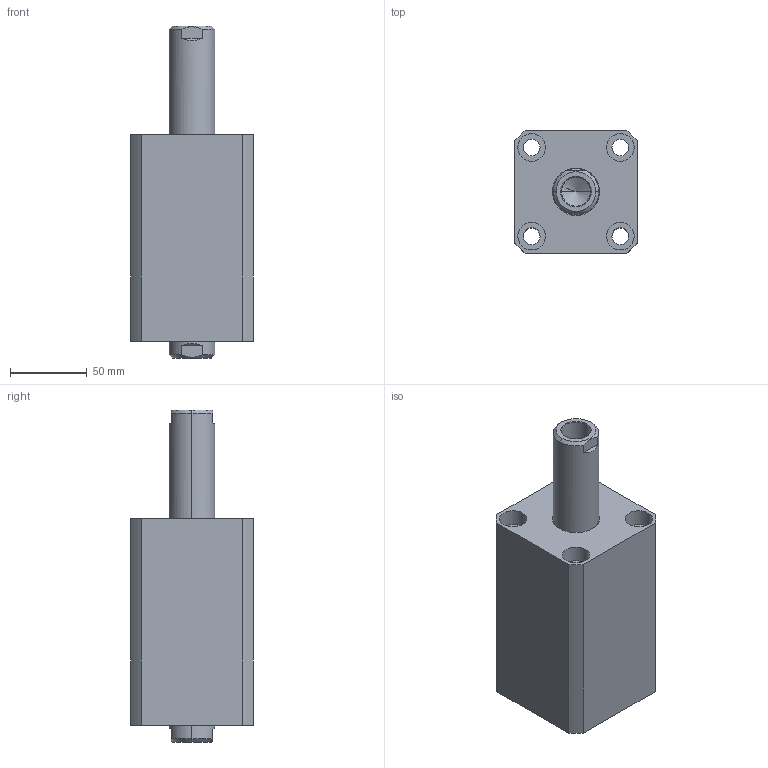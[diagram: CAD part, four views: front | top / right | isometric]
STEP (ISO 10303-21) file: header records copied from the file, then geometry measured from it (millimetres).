
FILE_DESCRIPTION (( 'STEP AP203' ), '1' );
FILE_NAME ('CHTB-SW50-60N.STEP', '2018-05-21T06:35:30', ( '' ), ( '' ), 'SwSTEP 2.0', 'SolidWorks 2015', '' );
FILE_SCHEMA (( 'CONFIG_CONTROL_DESIGN' ));
Length unit declared in the file: millimetre
Products named in the file (4): ヶ裔; 掛极SW50-60N; 活塞杆SW50-60N; CHTB-SW50-60N
Assembly tree (3 placements, depth 2):
  CHTB-SW50-60N
    掛极SW50-60N
    活塞杆SW50-60N
    ヶ裔
Bounding box: 80 x 80 x 217 mm (x, y, z)
Volume: 742801.6 mm3; surface area: 139432.4 mm2
Topology: 3 solids, 3 shells, 225 faces, 528 edges, 331 vertices
Faces by surface type: cylinder 118, plane 46, cone 33, torus 24, bspline 4
Entity records: 9698 total; most frequent: CARTESIAN_POINT 4235, DIRECTION 1104, ORIENTED_EDGE 1040, EDGE_CURVE 520, AXIS2_PLACEMENT_3D 462, VERTEX_POINT 331, EDGE_LOOP 271, CIRCLE 235
